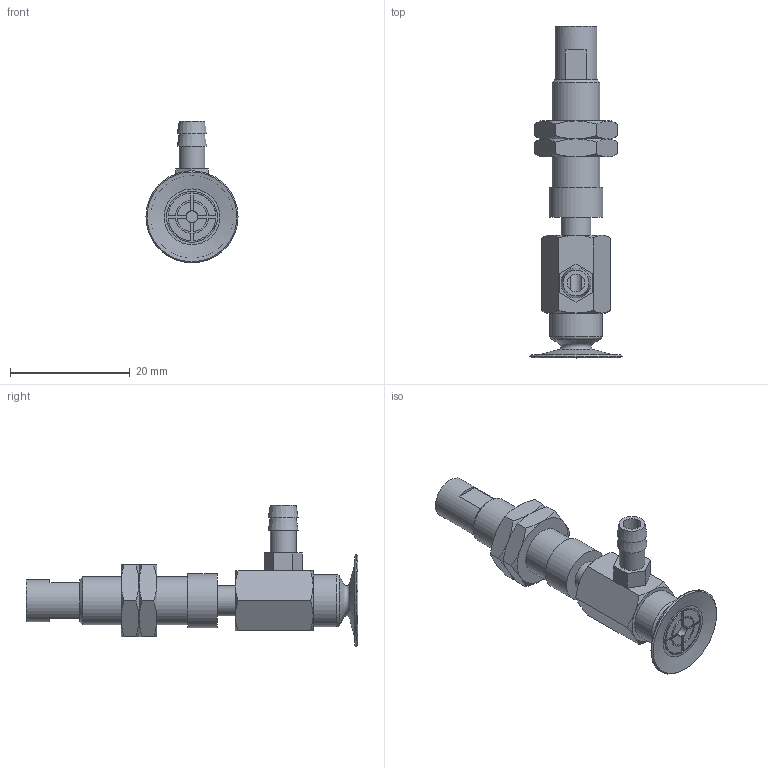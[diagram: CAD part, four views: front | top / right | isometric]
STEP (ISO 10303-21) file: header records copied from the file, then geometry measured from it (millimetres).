
FILE_DESCRIPTION(('STEP AP203'),'1');
FILE_NAME('-T.stp','2025-02-14T01:02:06',(' '),(' '),'Spatial InterOp 3D',' ',' ');
FILE_SCHEMA(('CONFIG_CONTROL_DESIGN'));
Length unit declared in the file: millimetre
Products named in the file (7): BNABPAYS-15B-3-※-T; NAPAYS-10A-3--M; NAPAYS-10A-3--F; Nut-10A-S; CONNECTOR-10A-3-PA; BPAG-15B-※_3D; T
Assembly tree (7 placements, depth 2):
  BNABPAYS-15B-3-※-T
    NAPAYS-10A-3--M
    NAPAYS-10A-3--F
    Nut-10A-S  x2
    CONNECTOR-10A-3-PA
    BPAG-15B-※_3D
    T
Bounding box: 15.4 x 55.5 x 23.7 mm (x, y, z)
Volume: 3582.4 mm3; surface area: 4695.9 mm2
Topology: 7 solids, 7 shells, 189 faces, 416 edges, 254 vertices
Faces by surface type: plane 83, cone 63, cylinder 33, torus 10
Full cylindrical faces by diameter (mm): 2 x2, 3 x1, 4 x2, 4.134 x2, 4.3 x1, 5 x4, 6 x2, 7 x1, 7.188 x2, 8 x1, 8.5 x1, 8.7 x1, 9 x1
Entity records: 4874 total; most frequent: CARTESIAN_POINT 1127, DIRECTION 714, ORIENTED_EDGE 622, EDGE_CURVE 311, AXIS2_PLACEMENT_3D 298, EDGE_LOOP 236, VERTEX_POINT 215, FACE_OUTER_BOUND 196
